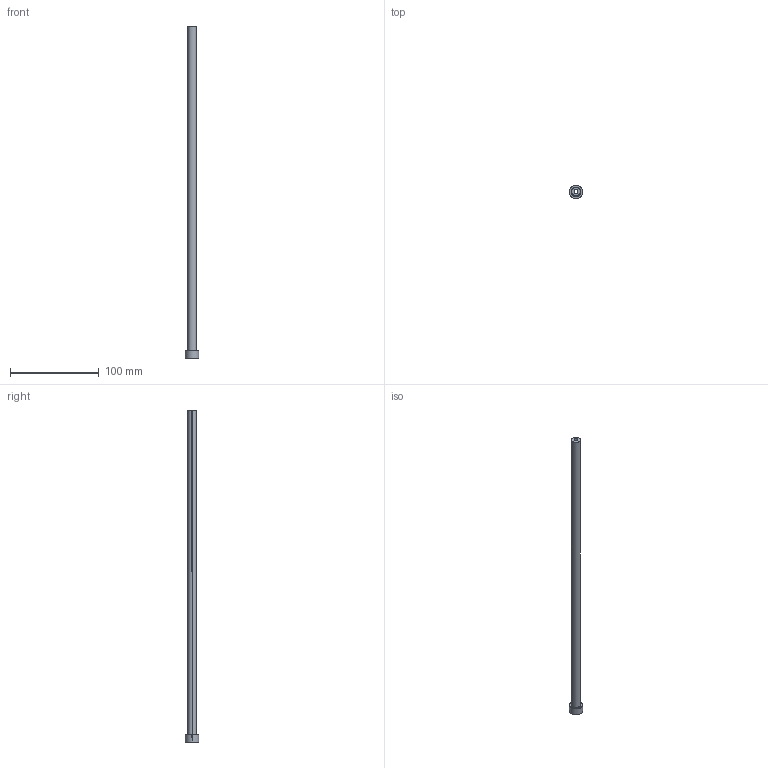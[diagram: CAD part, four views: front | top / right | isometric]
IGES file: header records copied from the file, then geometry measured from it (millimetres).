
Start section: SolidWorks IGES file using analytic representation for surfaces
Global section: file name: D:\Ref Drgs\JES Sleeve\3-45_375-400\JES-45-10-375\JES-45-10-375.IGS; native system: SolidWorks 2017; preprocessor: SolidWorks 2017; author: RK; date: 170621.125812; units: millimetre
Bounding box: 15 x 15 x 375 mm (x, y, z)
Surface area: 17869.1 mm2 (no closed solid volume)
Topology: 0 solids, 0 shells, 17 faces, 248 edges, 248 vertices
Faces by surface type: revolution 12, bspline 5
